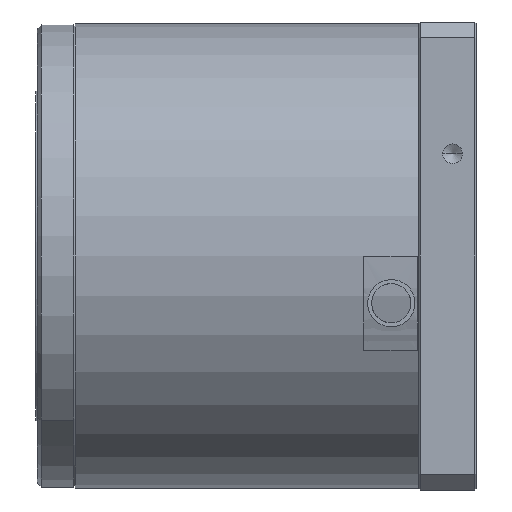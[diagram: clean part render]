
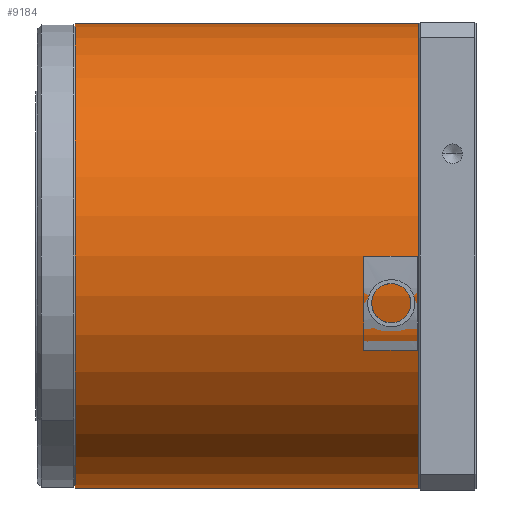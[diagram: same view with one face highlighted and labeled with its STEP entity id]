
A CAD part, left-side view. The second image highlights one B-rep face of the part: STEP entity #9184.
In plain terms, the highlighted cylindrical face has radius 29.5 mm (diameter 59 mm), a partial arc.
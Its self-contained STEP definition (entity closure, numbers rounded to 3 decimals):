
#335 = DIRECTION ( 'NONE',  ( 0., 0., -1. ) ) ;
#434 = VECTOR ( 'NONE', #2887, 1000. ) ;
#521 = EDGE_CURVE ( 'NONE', #5836, #6544, #11238, .T. ) ;
#720 = AXIS2_PLACEMENT_3D ( 'NONE', #2097, #11061, #335 ) ;
#1880 = ORIENTED_EDGE ( 'NONE', *, *, #521, .F. ) ;
#1951 = EDGE_CURVE ( 'NONE', #5836, #9379, #3174, .T. ) ;
#2097 = CARTESIAN_POINT ( 'NONE',  ( 0., 24.29, 0. ) ) ;
#2212 = CARTESIAN_POINT ( 'NONE',  ( 0., 24.29, 29.5 ) ) ;
#2887 = DIRECTION ( 'NONE',  ( 0., -1., 0. ) ) ;
#3174 = LINE ( 'NONE', #4572, #434 ) ;
#3218 = AXIS2_PLACEMENT_3D ( 'NONE', #8807, #11553, #9699 ) ;
#3388 = CARTESIAN_POINT ( 'NONE',  ( 0., -19.41, 29.5 ) ) ;
#3823 = ORIENTED_EDGE ( 'NONE', *, *, #9362, .F. ) ;
#4375 = DIRECTION ( 'NONE',  ( 0., 0., -1. ) ) ;
#4419 = CARTESIAN_POINT ( 'NONE',  ( 0., 24.29, -29.5 ) ) ;
#4448 = VERTEX_POINT ( 'NONE', #3388 ) ;
#4465 = LINE ( 'NONE', #11012, #10796 ) ;
#4525 = ORIENTED_EDGE ( 'NONE', *, *, #1951, .T. ) ;
#4572 = CARTESIAN_POINT ( 'NONE',  ( 0., 24.29, -29.5 ) ) ;
#5744 = FACE_OUTER_BOUND ( 'NONE', #6551, .T. ) ;
#5836 = VERTEX_POINT ( 'NONE', #4419 ) ;
#5877 = CYLINDRICAL_SURFACE ( 'NONE', #3218, 29.5 ) ;
#6284 = AXIS2_PLACEMENT_3D ( 'NONE', #10559, #8819, #4375 ) ;
#6544 = VERTEX_POINT ( 'NONE', #2212 ) ;
#6551 = EDGE_LOOP ( 'NONE', ( #1880, #4525, #7986, #3823 ) ) ;
#6603 = CARTESIAN_POINT ( 'NONE',  ( 0., -19.41, -29.5 ) ) ;
#6990 = CIRCLE ( 'NONE', #6284, 29.5 ) ;
#7986 = ORIENTED_EDGE ( 'NONE', *, *, #8530, .T. ) ;
#8530 = EDGE_CURVE ( 'NONE', #9379, #4448, #6990, .T. ) ;
#8807 = CARTESIAN_POINT ( 'NONE',  ( 0., 24.29, 0. ) ) ;
#8819 = DIRECTION ( 'NONE',  ( 0., 1., 0. ) ) ;
#9184 = ADVANCED_FACE ( 'NONE', ( #5744 ), #5877, .T. ) ;
#9239 = DIRECTION ( 'NONE',  ( 0., -1., 0. ) ) ;
#9362 = EDGE_CURVE ( 'NONE', #6544, #4448, #4465, .T. ) ;
#9379 = VERTEX_POINT ( 'NONE', #6603 ) ;
#9699 = DIRECTION ( 'NONE',  ( 0., 0., 1. ) ) ;
#10559 = CARTESIAN_POINT ( 'NONE',  ( 0., -19.41, 0. ) ) ;
#10796 = VECTOR ( 'NONE', #9239, 1000. ) ;
#11012 = CARTESIAN_POINT ( 'NONE',  ( 0., 24.29, 29.5 ) ) ;
#11061 = DIRECTION ( 'NONE',  ( 0., 1., 0. ) ) ;
#11238 = CIRCLE ( 'NONE', #720, 29.5 ) ;
#11553 = DIRECTION ( 'NONE',  ( 0., -1., 0. ) ) ;
